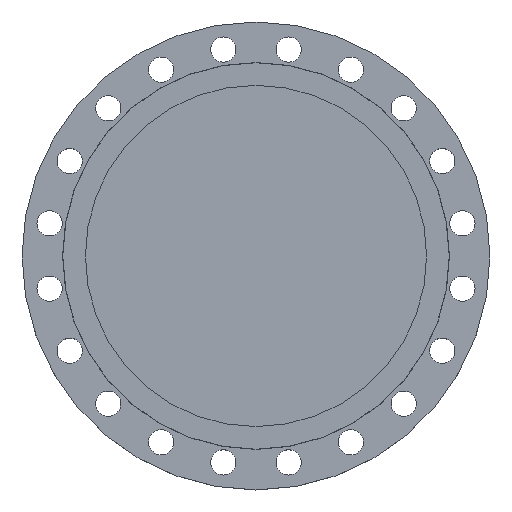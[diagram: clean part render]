
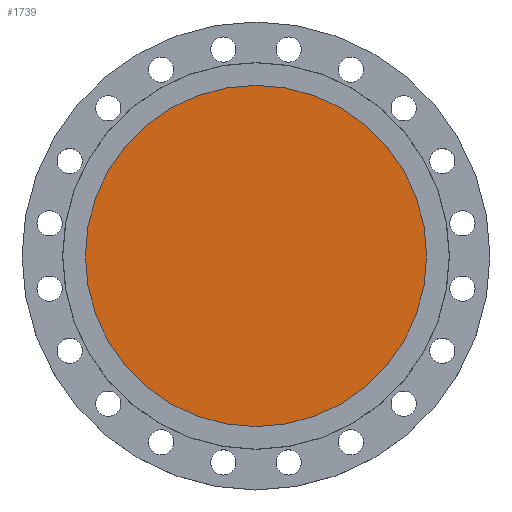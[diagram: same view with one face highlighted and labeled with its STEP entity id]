
A CAD part, top view. The second image highlights one B-rep face of the part: STEP entity #1739.
In plain terms, the highlighted planar face has unit normal (0, 0, 1).
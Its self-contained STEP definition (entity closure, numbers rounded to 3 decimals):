
#20 = DIRECTION ( 'NONE',  ( 0., 0., -1. ) ) ;
#83 = CARTESIAN_POINT ( 'NONE',  ( 0., 0., -5.5 ) ) ;
#317 = PLANE ( 'NONE',  #718 ) ;
#616 = VERTEX_POINT ( 'NONE', #1095 ) ;
#718 = AXIS2_PLACEMENT_3D ( 'NONE', #1989, #993, #2000 ) ;
#777 = CARTESIAN_POINT ( 'NONE',  ( 324.5, 0., -5.5 ) ) ;
#798 = AXIS2_PLACEMENT_3D ( 'NONE', #1954, #1948, #1945 ) ;
#802 = CIRCLE ( 'NONE', #834, 324.5 ) ;
#805 = CIRCLE ( 'NONE', #798, 324.5 ) ;
#834 = AXIS2_PLACEMENT_3D ( 'NONE', #83, #20, #1232 ) ;
#865 = FACE_OUTER_BOUND ( 'NONE', #1661, .T. ) ;
#993 = DIRECTION ( 'NONE',  ( 0., 0., 1. ) ) ;
#1095 = CARTESIAN_POINT ( 'NONE',  ( -324.5, 0., -5.5 ) ) ;
#1209 = EDGE_CURVE ( 'NONE', #616, #1528, #802, .T. ) ;
#1232 = DIRECTION ( 'NONE',  ( -1., 0., 0. ) ) ;
#1528 = VERTEX_POINT ( 'NONE', #777 ) ;
#1661 = EDGE_LOOP ( 'NONE', ( #1927, #1899 ) ) ;
#1739 = ADVANCED_FACE ( 'NONE', ( #865 ), #317, .T. ) ;
#1899 = ORIENTED_EDGE ( 'NONE', *, *, #1957, .F. ) ;
#1927 = ORIENTED_EDGE ( 'NONE', *, *, #1209, .F. ) ;
#1945 = DIRECTION ( 'NONE',  ( -1., 0., 0. ) ) ;
#1948 = DIRECTION ( 'NONE',  ( 0., 0., -1. ) ) ;
#1954 = CARTESIAN_POINT ( 'NONE',  ( 0., 0., -5.5 ) ) ;
#1957 = EDGE_CURVE ( 'NONE', #1528, #616, #805, .T. ) ;
#1989 = CARTESIAN_POINT ( 'NONE',  ( 0., 0., -5.5 ) ) ;
#2000 = DIRECTION ( 'NONE',  ( 1., 0., 0. ) ) ;
